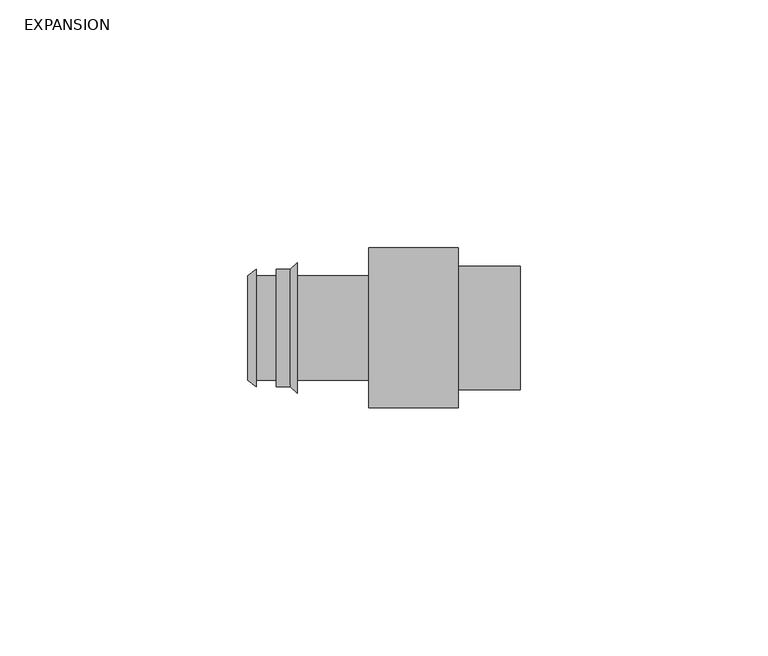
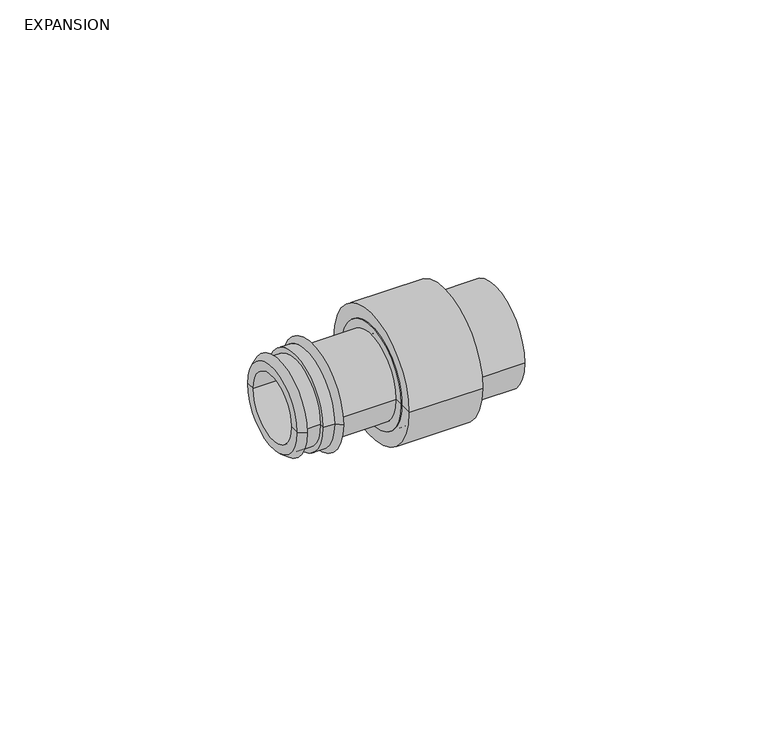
"""IFC4 building model written with IfcOpenShell, lengths in millimetres: valve geometry, Aquatherm - PEX Adapter Expansion : EXPANSION."""

from ifc_helpers import new_model, si_unit, frame, origin, place, context, project, spatial, polyline, circle_curve, source, transform, mapped, element, save
from ifc_brep_helpers import plane_surface, cylinder_surface, revolved_surface, advanced_brep


def expansion_16bec380(model_context):
    return source(origin(), model_context, "Body", "AdvancedBrep", [
        advanced_brep(
        [(-22.6695, -10.541, 0.0), (-22.6695, 10.541, 0.0), (-18.669, 10.541, 0.0), (-18.669, -10.541, 0.0), (-22.6695, -11.811, 0.0), (-22.6695, 11.811, 0.0), (3.175, -8.255, 0.0), (3.175, 8.255, 0.0), (-24.384, 8.255, 0.0), (-24.384, -8.255, 0.0), (3.175, -12.7, 0.0), (3.175, 12.7, 0.0), (0.0, -12.7, 0.0), (0.0, 12.7, 0.0), (0.0, -10.541, 0.0), (0.0, 10.541, 0.0), (-14.478, -10.541, 0.0), (-14.478, 10.541, 0.0), (-14.478, -13.1445, 0.0), (-14.478, 13.1445, 0.0), (-15.8115, -11.811, 0.0), (-15.8115, 11.811, 0.0), (-18.669, -11.811, 0.0), (-18.669, 11.811, 0.0), (-24.384, -10.541, 0.0), (-24.384, 10.541, 0.0)],
        [
            (0, 1, circle_curve(frame((-22.6695, 0.0, 0.0), z_axis=(1.0, 0.0, 0.0), x_axis=(0.0, 1.0, 0.0)), 10.541)),
            (1, 2),
            (2, 3, circle_curve(frame((-18.669, 0.0, 0.0), z_axis=(-1.0, 0.0, 0.0), x_axis=(0.0, 1.0, 0.0)), 10.541)),
            (3, 0),
            (1, 0, circle_curve(frame((-22.6695, 0.0, 0.0), z_axis=(1.0, 0.0, 0.0), x_axis=(0.0, 1.0, 0.0)), 10.541)),
            (3, 2, circle_curve(frame((-18.669, 0.0, 0.0), z_axis=(-1.0, 0.0, 0.0), x_axis=(0.0, 1.0, 0.0)), 10.541)),
            (4, 5, circle_curve(frame((-22.6695, 0.0, 0.0), z_axis=(1.0, 0.0, 0.0), x_axis=(0.0, 1.0, 0.0)), 11.811)),
            (5, 1),
            (0, 4),
            (5, 4, circle_curve(frame((-22.6695, 0.0, 0.0), z_axis=(1.0, 0.0, 0.0), x_axis=(0.0, 1.0, 0.0)), 11.811)),
            (6, 7, circle_curve(frame((3.175, 0.0, 0.0), z_axis=(1.0, 0.0, 0.0), x_axis=(0.0, 1.0, 0.0)), 8.255)),
            (7, 8),
            (8, 9, circle_curve(frame((-24.384, 0.0, 0.0), z_axis=(-1.0, 0.0, 0.0), x_axis=(0.0, 1.0, 0.0)), 8.255)),
            (9, 6),
            (7, 6, circle_curve(frame((3.175, 0.0, 0.0), z_axis=(1.0, 0.0, 0.0), x_axis=(0.0, 1.0, 0.0)), 8.255)),
            (9, 8, circle_curve(frame((-24.384, 0.0, 0.0), z_axis=(-1.0, 0.0, 0.0), x_axis=(0.0, 1.0, 0.0)), 8.255)),
            (10, 11, circle_curve(frame((3.175, 0.0, 0.0), z_axis=(1.0, 0.0, 0.0), x_axis=(0.0, 1.0, 0.0)), 12.7)),
            (11, 7),
            (6, 10),
            (11, 10, circle_curve(frame((3.175, 0.0, 0.0), z_axis=(1.0, 0.0, 0.0), x_axis=(0.0, 1.0, 0.0)), 12.7)),
            (12, 13, circle_curve(frame((0.0, 0.0, 0.0), z_axis=(1.0, 0.0, 0.0), x_axis=(0.0, 1.0, 0.0)), 12.7)),
            (13, 11),
            (10, 12),
            (13, 12, circle_curve(frame((0.0, 0.0, 0.0), z_axis=(1.0, 0.0, 0.0), x_axis=(0.0, 1.0, 0.0)), 12.7)),
            (14, 15, circle_curve(frame((0.0, 0.0, 0.0), z_axis=(1.0, 0.0, 0.0), x_axis=(0.0, 1.0, 0.0)), 10.541)),
            (15, 13),
            (12, 14),
            (15, 14, circle_curve(frame((0.0, 0.0, 0.0), z_axis=(1.0, 0.0, 0.0), x_axis=(0.0, 1.0, 0.0)), 10.541)),
            (16, 17, circle_curve(frame((-14.478, 0.0, 0.0), z_axis=(1.0, 0.0, 0.0), x_axis=(0.0, 1.0, 0.0)), 10.541)),
            (17, 15),
            (14, 16),
            (17, 16, circle_curve(frame((-14.478, 0.0, 0.0), z_axis=(1.0, 0.0, 0.0), x_axis=(0.0, 1.0, 0.0)), 10.541)),
            (18, 19, circle_curve(frame((-14.478, 0.0, 0.0), z_axis=(1.0, 0.0, 0.0), x_axis=(0.0, 1.0, 0.0)), 13.1445)),
            (19, 17),
            (16, 18),
            (19, 18, circle_curve(frame((-14.478, 0.0, 0.0), z_axis=(1.0, 0.0, 0.0), x_axis=(0.0, 1.0, 0.0)), 13.1445)),
            (20, 21, circle_curve(frame((-15.8115, 0.0, 0.0), z_axis=(1.0, 0.0, 0.0), x_axis=(0.0, 1.0, 0.0)), 11.811)),
            (21, 19),
            (18, 20),
            (21, 20, circle_curve(frame((-15.8115, 0.0, 0.0), z_axis=(1.0, 0.0, 0.0), x_axis=(0.0, 1.0, 0.0)), 11.811)),
            (22, 23, circle_curve(frame((-18.669, 0.0, 0.0), z_axis=(1.0, 0.0, 0.0), x_axis=(0.0, 1.0, 0.0)), 11.811)),
            (23, 21),
            (20, 22),
            (23, 22, circle_curve(frame((-18.669, 0.0, 0.0), z_axis=(1.0, 0.0, 0.0), x_axis=(0.0, 1.0, 0.0)), 11.811)),
            (2, 23),
            (22, 3),
            (24, 25, circle_curve(frame((-24.384, 0.0, 0.0), z_axis=(1.0, 0.0, 0.0), x_axis=(0.0, 1.0, 0.0)), 10.541)),
            (25, 5),
            (4, 24),
            (25, 24, circle_curve(frame((-24.384, 0.0, 0.0), z_axis=(1.0, 0.0, 0.0), x_axis=(0.0, 1.0, 0.0)), 10.541)),
            (8, 25),
            (24, 9),
        ],
        [
            cylinder_surface(frame((-35.941, 0.0, 0.0), z_axis=(-1.0, 0.0, 0.0), x_axis=(0.0, 1.0, 0.0)), 10.541),
            plane_surface(frame((-22.6695, 0.0, 0.0), z_axis=(1.0, 0.0, 0.0), x_axis=(0.0, 1.0, 0.0))),
            revolved_surface(polyline([(-24.384, 8.255, 0.0), (3.174999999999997, 8.255, 0.0)]), (-35.941, 0.0, 0.0), (-1.0, 0.0, 0.0)),
            plane_surface(frame((3.175, 0.0, 0.0), z_axis=(1.0, 0.0, 0.0), x_axis=(0.0, 1.0, 0.0))),
            cylinder_surface(frame((-35.941, 0.0, 0.0), z_axis=(-1.0, 0.0, 0.0), x_axis=(0.0, 1.0, 0.0)), 12.7),
            plane_surface(frame((0.0, 0.0, 0.0), z_axis=(-1.0, 0.0, 0.0), x_axis=(0.0, 1.0, 0.0))),
            plane_surface(frame((-14.478, 0.0, 0.0), z_axis=(1.0, 0.0, 0.0), x_axis=(0.0, 1.0, 0.0))),
            revolved_surface(polyline([(-14.478, 13.1445, 0.0), (-15.8115, 11.811, 0.0)]), (-35.941, 0.0, 0.0), (-1.0, 0.0, 0.0)),
            cylinder_surface(frame((-35.941, 0.0, 0.0), z_axis=(-1.0, 0.0, 0.0), x_axis=(0.0, 1.0, 0.0)), 11.811),
            plane_surface(frame((-18.669, 0.0, 0.0), z_axis=(-1.0, 0.0, 0.0), x_axis=(0.0, 1.0, 0.0))),
            revolved_surface(polyline([(-22.6695, 11.811, 0.0), (-24.384, 10.541, 0.0)]), (-35.941, 0.0, 0.0), (-1.0, 0.0, 0.0)),
            plane_surface(frame((-24.384, 0.0, 0.0), z_axis=(-1.0, 0.0, 0.0), x_axis=(0.0, 1.0, 0.0))),
        ],
        [
            (0, [[1, 2, 3, 4]]),
            (0, [[5, -4, 6, -2]]),
            (1, [[7, 8, -1, 9]]),
            (1, [[10, -9, -5, -8]]),
            (2, [[11, 12, 13, 14]]),
            (2, [[15, -14, 16, -12]]),
            (3, [[17, 18, -11, 19]]),
            (3, [[20, -19, -15, -18]]),
            (4, [[21, 22, -17, 23]]),
            (4, [[24, -23, -20, -22]]),
            (5, [[25, 26, -21, 27]]),
            (5, [[28, -27, -24, -26]]),
            (0, [[29, 30, -25, 31]]),
            (0, [[32, -31, -28, -30]]),
            (6, [[33, 34, -29, 35]]),
            (6, [[36, -35, -32, -34]]),
            (7, [[37, 38, -33, 39]]),
            (7, [[40, -39, -36, -38]]),
            (8, [[41, 42, -37, 43]]),
            (8, [[44, -43, -40, -42]]),
            (9, [[-3, 45, -41, 46]]),
            (9, [[-6, -46, -44, -45]]),
            (10, [[47, 48, -7, 49]]),
            (10, [[50, -49, -10, -48]]),
            (11, [[-13, 51, -47, 52]]),
            (11, [[-16, -52, -50, -51]]),
        ],
    ),
        advanced_brep(
        [(0.0, -16.129, 0.0), (0.0, 16.129, 0.0), (18.034, 16.129, 0.0), (18.034, -16.129, 0.0), (0.0, -12.7, 0.0), (0.0, 12.7, 0.0), (3.175, -12.7, 0.0), (3.175, 12.7, 0.0), (3.175, -8.255, 0.0), (3.175, 8.255, 0.0), (30.48, -8.255, 0.0), (30.48, 8.255, 0.0), (30.48, -12.446, 0.0), (30.48, 12.446, 0.0), (18.034, -12.446, 0.0), (18.034, 12.446, 0.0)],
        [
            (0, 1, circle_curve(frame((0.0, 0.0, 0.0), z_axis=(1.0, 0.0, 0.0), x_axis=(0.0, 1.0, 0.0)), 16.129)),
            (1, 2),
            (2, 3, circle_curve(frame((18.034, 0.0, 0.0), z_axis=(-1.0, 0.0, 0.0), x_axis=(0.0, 1.0, 0.0)), 16.129)),
            (3, 0),
            (1, 0, circle_curve(frame((0.0, 0.0, 0.0), z_axis=(1.0, 0.0, 0.0), x_axis=(0.0, 1.0, 0.0)), 16.129)),
            (3, 2, circle_curve(frame((18.034, 0.0, 0.0), z_axis=(-1.0, 0.0, 0.0), x_axis=(0.0, 1.0, 0.0)), 16.129)),
            (4, 5, circle_curve(frame((0.0, 0.0, 0.0), z_axis=(1.0, 0.0, 0.0), x_axis=(0.0, 1.0, 0.0)), 12.7)),
            (5, 1),
            (0, 4),
            (5, 4, circle_curve(frame((0.0, 0.0, 0.0), z_axis=(1.0, 0.0, 0.0), x_axis=(0.0, 1.0, 0.0)), 12.7)),
            (6, 7, circle_curve(frame((3.175, 0.0, 0.0), z_axis=(1.0, 0.0, 0.0), x_axis=(0.0, 1.0, 0.0)), 12.7)),
            (7, 5),
            (4, 6),
            (7, 6, circle_curve(frame((3.175, 0.0, 0.0), z_axis=(1.0, 0.0, 0.0), x_axis=(0.0, 1.0, 0.0)), 12.7)),
            (8, 9, circle_curve(frame((3.175, 0.0, 0.0), z_axis=(1.0, 0.0, 0.0), x_axis=(0.0, 1.0, 0.0)), 8.255)),
            (9, 7),
            (6, 8),
            (9, 8, circle_curve(frame((3.175, 0.0, 0.0), z_axis=(1.0, 0.0, 0.0), x_axis=(0.0, 1.0, 0.0)), 8.255)),
            (10, 11, circle_curve(frame((30.48, 0.0, 0.0), z_axis=(1.0, 0.0, 0.0), x_axis=(0.0, 1.0, 0.0)), 8.255)),
            (11, 9),
            (8, 10),
            (11, 10, circle_curve(frame((30.48, 0.0, 0.0), z_axis=(1.0, 0.0, 0.0), x_axis=(0.0, 1.0, 0.0)), 8.255)),
            (12, 13, circle_curve(frame((30.48, 0.0, 0.0), z_axis=(1.0, 0.0, 0.0), x_axis=(0.0, 1.0, 0.0)), 12.446)),
            (13, 11),
            (10, 12),
            (13, 12, circle_curve(frame((30.48, 0.0, 0.0), z_axis=(1.0, 0.0, 0.0), x_axis=(0.0, 1.0, 0.0)), 12.446)),
            (14, 15, circle_curve(frame((18.034, 0.0, 0.0), z_axis=(1.0, 0.0, 0.0), x_axis=(0.0, 1.0, 0.0)), 12.446)),
            (15, 13),
            (12, 14),
            (15, 14, circle_curve(frame((18.034, 0.0, 0.0), z_axis=(1.0, 0.0, 0.0), x_axis=(0.0, 1.0, 0.0)), 12.446)),
            (2, 15),
            (14, 3),
        ],
        [
            cylinder_surface(frame((-49.784, 0.0, 0.0), z_axis=(-1.0, 0.0, 0.0), x_axis=(0.0, 1.0, 0.0)), 16.129),
            plane_surface(frame((0.0, 0.0, 0.0), z_axis=(-1.0, 0.0, 0.0), x_axis=(0.0, 1.0, 0.0))),
            revolved_surface(polyline([(0.0, 12.7, 0.0), (3.174999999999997, 12.7, 0.0)]), (-49.784, 0.0, 0.0), (-1.0, 0.0, 0.0)),
            plane_surface(frame((3.175, 0.0, 0.0), z_axis=(-1.0, 0.0, 0.0), x_axis=(0.0, 1.0, 0.0))),
            revolved_surface(polyline([(3.174999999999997, 8.255, 0.0), (30.479999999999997, 8.255, 0.0)]), (-49.784, 0.0, 0.0), (-1.0, 0.0, 0.0)),
            plane_surface(frame((30.48, 0.0, 0.0), z_axis=(1.0, 0.0, 0.0), x_axis=(0.0, 1.0, 0.0))),
            cylinder_surface(frame((-49.784, 0.0, 0.0), z_axis=(-1.0, 0.0, 0.0), x_axis=(0.0, 1.0, 0.0)), 12.446),
            plane_surface(frame((18.034, 0.0, 0.0), z_axis=(1.0, 0.0, 0.0), x_axis=(0.0, 1.0, 0.0))),
        ],
        [
            (0, [[1, 2, 3, 4]]),
            (0, [[5, -4, 6, -2]]),
            (1, [[7, 8, -1, 9]]),
            (1, [[10, -9, -5, -8]]),
            (2, [[11, 12, -7, 13]]),
            (2, [[14, -13, -10, -12]]),
            (3, [[15, 16, -11, 17]]),
            (3, [[18, -17, -14, -16]]),
            (4, [[19, 20, -15, 21]]),
            (4, [[22, -21, -18, -20]]),
            (5, [[23, 24, -19, 25]]),
            (5, [[26, -25, -22, -24]]),
            (6, [[27, 28, -23, 29]]),
            (6, [[30, -29, -26, -28]]),
            (7, [[-3, 31, -27, 32]]),
            (7, [[-6, -32, -30, -31]]),
        ],
    ),
    ])


if __name__ == "__main__":
    model = new_model("IFC4")
    model_context = context("Model", 3, world=origin())
    ifc_project = project(units=[si_unit("LENGTHUNIT", "METRE", prefix="MILLI")], contexts=[model_context])
    site = spatial("IfcSite", under=ifc_project)
    building = spatial("IfcBuilding", under=site)
    placement = place(None, origin())
    expansion_shape = expansion_16bec380(model_context)
    element("IfcValve", 1, ObjectType="Aquatherm - PEX Adapter Expansion : EXPANSION", at=placement, inside=building, context=model_context, shape_type="MappedRepresentation", body=[
        mapped(expansion_shape, transform((0.0, 0.0, 0.0), x_axis=(1.0, 0.0, 0.0), y_axis=(0.0, 1.0, 0.0), z_axis=(0.0, 0.0, 1.0))),
    ])
    save(model, "model.ifc")
